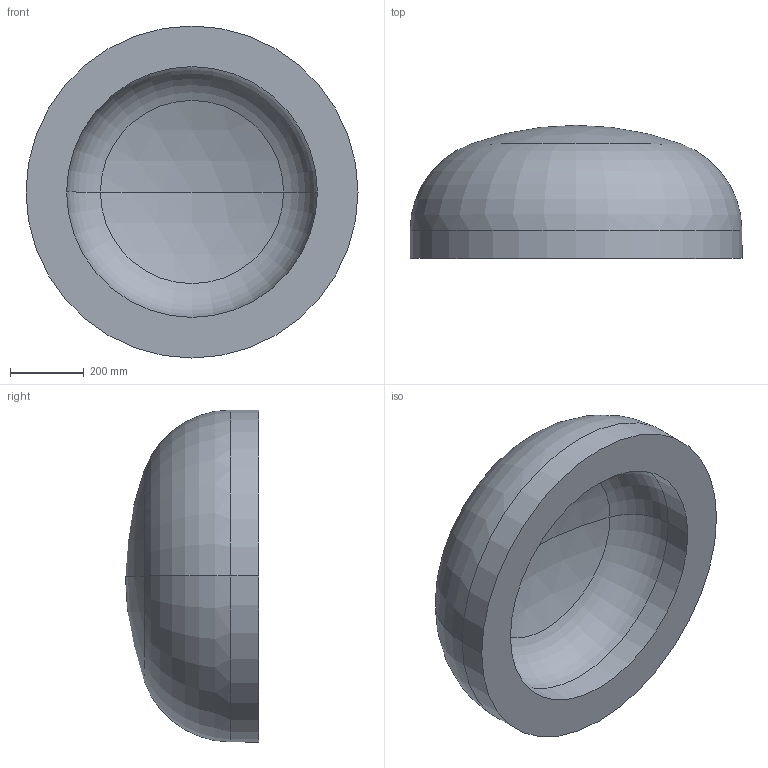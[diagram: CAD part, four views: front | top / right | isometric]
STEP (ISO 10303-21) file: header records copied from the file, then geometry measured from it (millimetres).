
FILE_DESCRIPTION (( 'STEP AP203' ), '1' );
FILE_NAME ('DIN 28013 Korbbogenform_-_Boden DIN 28013 - 900 x 75 - I - s=110.step', '2016-07-01T08:39:20', ( '' ), ( '' ), 'SwSTEP 2.0', 'SolidWorks 2013', '' );
FILE_SCHEMA (( 'CONFIG_CONTROL_DESIGN' ));
Length unit declared in the file: millimetre
Products named in the file (1): DIN 28013 Korbbogenform_-_Boden DIN 28013 - 900 x 75 - I - s=110
Bounding box: 900 x 360.57 x 900 mm (x, y, z)
Volume: 104153396.8 mm3; surface area: 2192044.5 mm2
Topology: 1 solids, 1 shells, 13 faces, 24 edges, 14 vertices
Faces by surface type: torus 4, cylinder 4, sphere 4, plane 1
Entity records: 407 total; most frequent: DIRECTION 72, CARTESIAN_POINT 52, ORIENTED_EDGE 48, AXIS2_PLACEMENT_3D 34, EDGE_CURVE 24, CIRCLE 20, EDGE_LOOP 14, VERTEX_POINT 14
